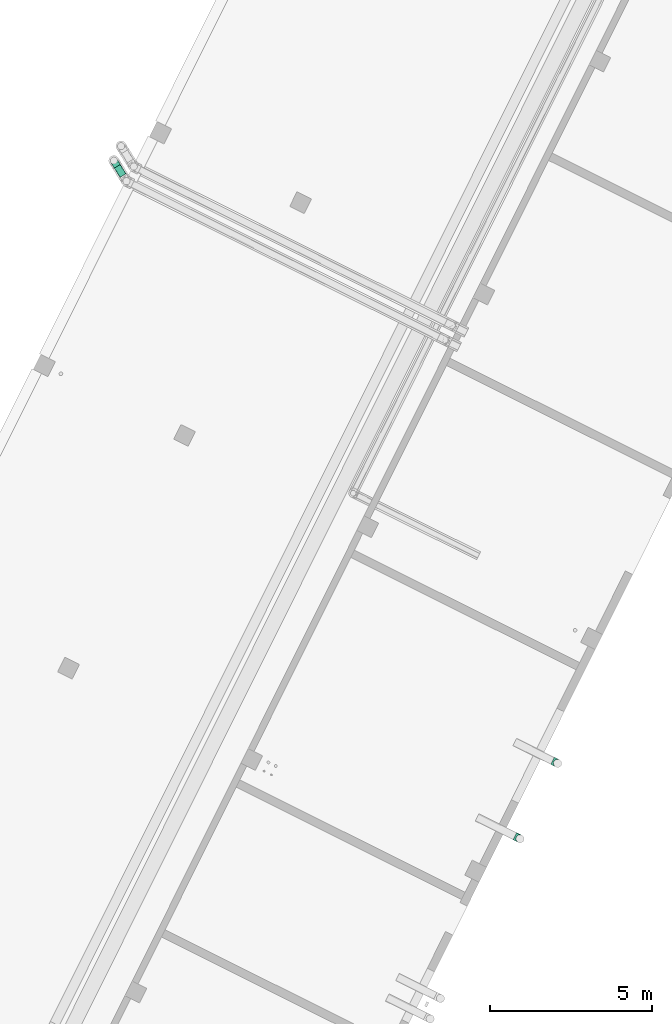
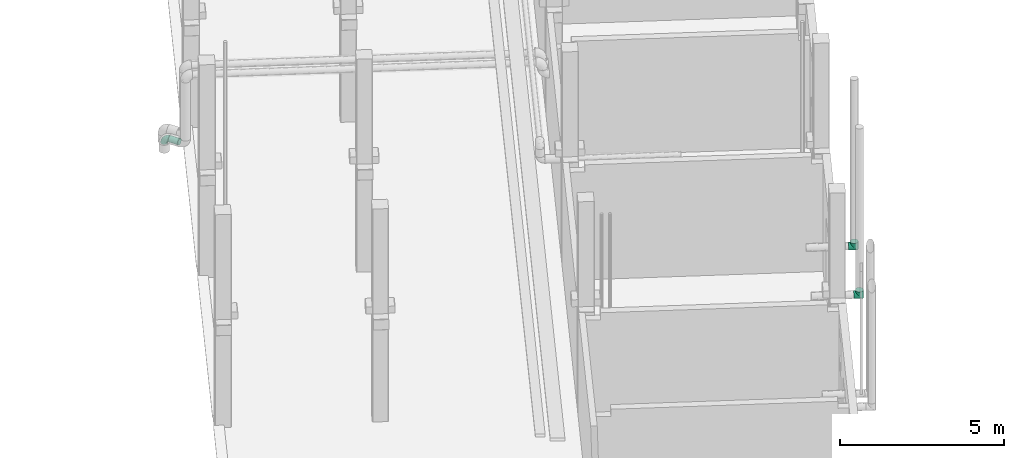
# One storey, part 72 of 91: 3 flow fittings, 1 flow segment.
"""IFC2X3 building model written with IfcOpenShell, lengths in metres."""

import ifcopenshell
import ifcopenshell.guid

model = None  # the IFC model being written
_history = None  # IfcOwnerHistory: only IFC2X3 demands one
_inside = {}  # id of a spatial element -> (the spatial element, [elements in it])
_under = {}  # id of a project, library or spatial element -> (it, [spatial elements below it])
_declared = {}  # id of a project -> (the project, [libraries it declares])
_typed = {}  # id of a type object -> (the type object, [elements of that type])
_made_of = {}  # id of a material, layer set ... -> (it, [elements and type objects made of it])


def new_model(schema):
    """Start an empty IFC model of exactly this schema.

    Asked for "IFC4X3", IfcOpenShell would pick the latest addendum, in which some entities
    have other attributes; the version numbers below select the first issue.
    IFC2X3 requires an IfcOwnerHistory on every rooted entity: one is made here for all.
    """
    global model, _history
    if schema == "IFC4X3":
        model = ifcopenshell.file(schema_version=(4, 3, 0, 0))
    else:
        model = ifcopenshell.file(schema=schema)
    _inside.clear()
    _under.clear()
    _declared.clear()
    _typed.clear()
    _made_of.clear()
    _history = None
    if model.schema == "IFC2X3":
        org = make("IfcOrganization", Name="unknown")
        user = make(
            "IfcPersonAndOrganization",
            ThePerson=make("IfcPerson", FamilyName="unknown"),
            TheOrganization=org,
        )
        app = make(
            "IfcApplication",
            ApplicationDeveloper=org,
            Version="unknown",
            ApplicationFullName="unknown",
            ApplicationIdentifier="unknown",
        )
        _history = make(
            "IfcOwnerHistory",
            OwningUser=user,
            OwningApplication=app,
            ChangeAction="ADDED",
            CreationDate=0,
        )
    return model


def make(cls, **values):
    """One entity of the class cls with the attributes given. An attribute that is None is left unset."""
    return model.create_entity(
        cls, **{name: value for name, value in values.items() if value is not None}
    )


def entity(cls, *values):
    """Any entity or typed value of the class cls, its attributes in the order of the schema. None: left unset."""
    e = model.create_entity(cls)
    for i, value in enumerate(values):
        if value is not None:
            e[i] = value
    return e


def rooted(cls, **values):
    """An entity with a GlobalId (a new one), such as an element, a storey or a relation."""
    return make(cls, GlobalId=ifcopenshell.guid.new(), OwnerHistory=_history, **values)


def si_unit(unit_type, name, prefix=None):
    """IfcSIUnit, for example si_unit("LENGTHUNIT", "METRE", prefix="MILLI")."""
    return make("IfcSIUnit", UnitType=unit_type, Prefix=prefix, Name=name)


def converted_unit(unit_type, name, factor, base, dimensions=None, offset=None):
    """IfcConversionBasedUnit, such as the inch: factor (a typed value) times the base unit."""
    return make(
        "IfcConversionBasedUnit"
        if offset is None
        else "IfcConversionBasedUnitWithOffset",
        ConversionOffset=offset,
        Dimensions=None
        if dimensions is None
        else entity("IfcDimensionalExponents", *dimensions),
        UnitType=unit_type,
        Name=name,
        ConversionFactor=make(
            "IfcMeasureWithUnit", ValueComponent=factor, UnitComponent=base
        ),
    )


def derived_unit(unit_type, elements):
    """IfcDerivedUnit: a product of units, each with its exponent."""
    return make(
        "IfcDerivedUnit",
        Elements=[
            make("IfcDerivedUnitElement", Unit=unit, Exponent=power)
            for unit, power in elements
        ],
        UnitType=unit_type,
    )


def assignment(units):
    """IfcUnitAssignment: the units of a project."""
    return None if units is None else make("IfcUnitAssignment", Units=units)


def point(xyz):
    """IfcCartesianPoint."""
    return None if xyz is None else make("IfcCartesianPoint", Coordinates=xyz)


def direction(xyz):
    """IfcDirection."""
    return None if xyz is None else make("IfcDirection", DirectionRatios=xyz)


def frame(location, z_axis=None, x_axis=None):
    """IfcAxis2Placement3D, a coordinate frame: its origin and axes. An axis left out is left unset."""
    return make(
        "IfcAxis2Placement3D",
        Location=point(location),
        Axis=direction(z_axis),
        RefDirection=direction(x_axis),
    )


def frame_2d(location, x_axis=None):
    """IfcAxis2Placement2D, a coordinate frame in the plane: its origin and x axis."""
    return make(
        "IfcAxis2Placement2D", Location=point(location), RefDirection=direction(x_axis)
    )


def origin():
    """The frame at (0, 0, 0) with its axes left unset."""
    return frame((0.0, 0.0, 0.0))


def origin_2d_with_axis():
    """The frame at (0, 0) in the plane with the x axis (1, 0) written out."""
    return frame_2d((0.0, 0.0), x_axis=(1.0, 0.0))


def place(relative_to, where):
    """IfcLocalPlacement: puts the frame where relative to a parent placement (None: the world)."""
    return make(
        "IfcLocalPlacement", PlacementRelTo=relative_to, RelativePlacement=where
    )


def context(
    kind, dimensions, precision=None, world=None, true_north=None, identifier=None
):
    """IfcGeometricRepresentationContext, for example the 3D "Model" context."""
    return make(
        "IfcGeometricRepresentationContext",
        ContextIdentifier=identifier,
        ContextType=kind,
        CoordinateSpaceDimension=dimensions,
        Precision=precision,
        WorldCoordinateSystem=world,
        TrueNorth=true_north,
    )


def subcontext(parent, identifier, kind, view, scale=None):
    """IfcGeometricRepresentationSubContext, for example "Body" below "Model"."""
    return make(
        "IfcGeometricRepresentationSubContext",
        ContextIdentifier=identifier,
        ContextType=kind,
        ParentContext=parent,
        TargetScale=scale,
        TargetView=view,
    )


def project(units=None, contexts=None):
    """IfcProject with its units and contexts."""
    return rooted(
        "IfcProject",
        Name="project",
        RepresentationContexts=contexts,
        UnitsInContext=assignment(units),
    )


def spatial(cls, under=None, at=None, **own):
    """A site, building, storey or space (cls), placed at a placement, below another one or the project."""
    s = rooted(cls, ObjectPlacement=at, **own)
    if under is not None:
        _under.setdefault(under.id(), (under, []))[1].append(s)
    return s


def profile(cls, at=None, kind="AREA", **sizes):
    """A parametric profile (cls). Its sizes go by their IFC names, for example OverallWidth=200.0."""
    return make(cls, ProfileType=kind, Position=at, **sizes)


def circle(**sizes):
    """IfcCircleProfileDef."""
    return profile("IfcCircleProfileDef", **sizes)


def extrude(swept, where, along, depth):
    """IfcExtrudedAreaSolid: the profile swept, set in the frame where, extruded along a direction by depth."""
    return make(
        "IfcExtrudedAreaSolid",
        SweptArea=swept,
        Position=where,
        ExtrudedDirection=direction(along),
        Depth=depth,
    )


def faces_of(points, faces, orient=None, outer=None):
    """IfcFace entities. A face is a list of loops; a loop is a list of indices into points, from 0.

    orient and outer hold one flag for each loop. By default every Orientation is true, the
    first loop of a face is its IfcFaceOuterBound and the others are IfcFaceBound.
    """
    made = []
    for i, loops in enumerate(faces):
        bounds = []
        for j, loop in enumerate(loops):
            is_outer = j == 0 if outer is None else outer[i][j]
            bounds.append(
                make(
                    "IfcFaceOuterBound" if is_outer else "IfcFaceBound",
                    Bound=make("IfcPolyLoop", Polygon=[points[k] for k in loop]),
                    Orientation=True if orient is None else orient[i][j],
                )
            )
        made.append(make("IfcFace", Bounds=bounds))
    return made


def faceted_brep(points, faces, orient=None, outer=None, voids=None):
    """IfcFacetedBrep: a solid bounded by flat faces; with voids (closed shells), ...WithVoids."""
    shared = [point(p) for p in points]
    hull = make("IfcClosedShell", CfsFaces=faces_of(shared, faces, orient, outer))
    if voids is None:
        return make("IfcFacetedBrep", Outer=hull)
    return make(
        "IfcFacetedBrepWithVoids",
        Outer=hull,
        Voids=[
            make(cls, CfsFaces=faces_of(shared, fs, o, b)) for cls, fs, o, b in voids
        ],
    )


def shape(context_of_items, identifier, shape_type, items):
    """IfcShapeRepresentation: the items that make up one representation, for example the "Body"."""
    return make(
        "IfcShapeRepresentation",
        ContextOfItems=context_of_items,
        RepresentationIdentifier=identifier,
        RepresentationType=shape_type,
        Items=items,
    )


def source(mapping_origin, context_of_items, identifier, shape_type, items):
    """IfcRepresentationMap: a shape defined once, which mapped items show again and again."""
    return make(
        "IfcRepresentationMap",
        MappingOrigin=mapping_origin,
        MappedRepresentation=shape(context_of_items, identifier, shape_type, items),
    )


def transform(
    local_origin,
    x_axis=None,
    y_axis=None,
    z_axis=None,
    scale=None,
    scale2=None,
    scale3=None,
    uniform=True,
):
    """IfcCartesianTransformationOperator3D, or its non-uniform kind. x_axis, y_axis, z_axis: its Axis1, 2, 3."""
    if uniform:
        return make(
            "IfcCartesianTransformationOperator3D",
            Axis1=direction(x_axis),
            Axis2=direction(y_axis),
            LocalOrigin=point(local_origin),
            Scale=scale,
            Axis3=direction(z_axis),
        )
    return make(
        "IfcCartesianTransformationOperator3DnonUniform",
        Axis1=direction(x_axis),
        Axis2=direction(y_axis),
        LocalOrigin=point(local_origin),
        Scale=scale,
        Axis3=direction(z_axis),
        Scale2=scale2,
        Scale3=scale3,
    )


def mapped(mapping_source, mapping_target):
    """IfcMappedItem: shows the shape of a source again, moved by a transform."""
    return make(
        "IfcMappedItem", MappingSource=mapping_source, MappingTarget=mapping_target
    )


def made_of(thing, what):
    """Note that an element or type object is made of a material, layer set ...; save() writes the relation."""
    if what is not None:
        _made_of.setdefault(what.id(), (what, []))[1].append(thing)
    return thing


def type_object(cls, material=None, **own):
    """A type object (cls), such as IfcWallType, which elements share."""
    return made_of(rooted(cls, **own), material)


def type_shapes(of_type, sources):
    """Give a type object the sources (RepresentationMaps) that its elements show as mapped items."""
    of_type.RepresentationMaps = sources


def element(
    cls,
    number,
    at=None,
    inside=None,
    cuts=None,
    type_object=None,
    material=None,
    context=None,
    identifier="Body",
    shape_type=None,
    held_by="IfcProductDefinitionShape",
    body=None,
    shapes=None,
    **own,
):
    """One element of the class cls, such as IfcWall. Its Tag is "e" and its number.

    at: its placement. inside: the storey or other place that contains it. cuts: it is an
    opening in that element (IfcRelVoidsElement). A single representation is given by context,
    identifier, shape_type and body (its items); several are given by shapes. held_by: the class
    of the entity that holds the representations. save() writes the other relations.
    """
    e = rooted(cls, Tag="e%d" % number, ObjectPlacement=at, **own)
    if body is not None:
        shapes = [shape(context, identifier, shape_type, body)]
    if shapes is not None:
        e.Representation = make(held_by, Representations=shapes)
    if inside is not None:
        _inside.setdefault(inside.id(), (inside, []))[1].append(e)
    if cuts is not None:
        rooted(
            "IfcRelVoidsElement", RelatingBuildingElement=cuts, RelatedOpeningElement=e
        )
    if type_object is not None:
        _typed.setdefault(type_object.id(), (type_object, []))[1].append(e)
    return made_of(e, material)


def aggregate(whole, parts):
    """IfcRelAggregates: a whole, such as a stair, and the parts it consists of."""
    return rooted("IfcRelAggregates", RelatingObject=whole, RelatedObjects=parts)


def save(model, path):
    """Write the relations noted so far, then the file.

    IfcRelAggregates (storeys below a building ...), IfcRelContainedInSpatialStructure (elements
    in a storey), IfcRelDefinesByType, IfcRelAssociatesMaterial and IfcRelDeclares: one each for
    every whole, place, type object, material and project.
    """
    for whole, parts in _under.values():
        aggregate(whole, parts)
    for where, things in _inside.values():
        rooted(
            "IfcRelContainedInSpatialStructure",
            RelatedElements=things,
            RelatingStructure=where,
        )
    for kind, things in _typed.values():
        rooted("IfcRelDefinesByType", RelatedObjects=things, RelatingType=kind)
    for what, things in _made_of.values():
        rooted("IfcRelAssociatesMaterial", RelatedObjects=things, RelatingMaterial=what)
    for by, libraries in _declared.values():
        rooted("IfcRelDeclares", RelatingContext=by, RelatedDefinitions=libraries)
    model.write(path)


model = new_model("IFC2X3")

# Units and contexts
model_context = context("Model", 3, precision=1e-05, world=origin(), true_north=direction((0.894925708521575, 0.446215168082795)))
context_of_model = context(None, 3, precision=1e-05, world=origin(), true_north=direction((0.894925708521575, 0.446215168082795)))
body_context = subcontext(model_context, "Body", "Model", "MODEL_VIEW")
ifc_project = project(units=[si_unit("LENGTHUNIT", "METRE"), si_unit("AREAUNIT", "SQUARE_METRE"), si_unit("VOLUMEUNIT", "CUBIC_METRE"), converted_unit("PLANEANGLEUNIT", "DEGREE", entity("IfcRatioMeasure", 0.0174532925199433), si_unit("PLANEANGLEUNIT", "RADIAN"), dimensions=[0, 0, 0, 0, 0, 0, 0]), si_unit("MASSUNIT", "GRAM", prefix="KILO"), si_unit("TIMEUNIT", "SECOND"), si_unit("FREQUENCYUNIT", "HERTZ"), si_unit("THERMODYNAMICTEMPERATUREUNIT", "DEGREE_CELSIUS"), derived_unit("THERMALTRANSMITTANCEUNIT", [(si_unit("MASSUNIT", "GRAM", prefix="KILO"), 1), (si_unit("THERMODYNAMICTEMPERATUREUNIT", "KELVIN"), -1), (si_unit("TIMEUNIT", "SECOND"), -3)]), derived_unit("VOLUMETRICFLOWRATEUNIT", [(si_unit("LENGTHUNIT", "METRE"), 3), (si_unit("TIMEUNIT", "SECOND"), -1)]), si_unit("ELECTRICCURRENTUNIT", "AMPERE"), si_unit("ELECTRICVOLTAGEUNIT", "VOLT"), si_unit("POWERUNIT", "WATT"), si_unit("FORCEUNIT", "NEWTON", prefix="KILO"), si_unit("ILLUMINANCEUNIT", "LUX"), si_unit("LUMINOUSFLUXUNIT", "LUMEN"), si_unit("LUMINOUSINTENSITYUNIT", "CANDELA"), si_unit("PRESSUREUNIT", "PASCAL")], contexts=[model_context, context_of_model])

# Site, building, storey
site_placement = place(None, frame((218.228324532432, 584.720189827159, 0.0), z_axis=(0.0, 0.0, 1.0), x_axis=(0.446215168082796, 0.894925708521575, 0.0)))
site = spatial("IfcSite", under=ifc_project, at=site_placement, Name="Default", CompositionType="ELEMENT")
building_placement = place(site_placement, origin())
building = spatial("IfcBuilding", under=site, at=building_placement, CompositionType="ELEMENT")
storey_placement = place(building_placement, origin())
storey = spatial("IfcBuildingStorey", under=building, at=storey_placement, Name="0 - Piano Terra", CompositionType="ELEMENT", Elevation=0.0)

# Flow fittings
duct_fitting_type = type_object("IfcDuctFittingType", Name="Standard", PredefinedType="NOTDEFINED")
shared_shape_1 = source(origin(), body_context, "Body", "Brep", [
    faceted_brep([(-0.0883883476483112, 0.175297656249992, -0.0883883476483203), (-0.108253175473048, 0.175297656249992, -0.0625000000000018), (-0.120740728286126, 0.175297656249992, -0.0323523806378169), (-0.124999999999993, 0.175297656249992, 0.0), (-0.120740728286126, 0.175297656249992, 0.0323523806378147), (-0.108253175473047, 0.175297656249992, 0.0624999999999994), (-0.0883883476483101, 0.175297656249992, 0.0883883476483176), (-0.0624999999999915, 0.175297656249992, 0.108253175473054), (-0.0323523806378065, 0.175297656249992, 0.120740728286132), (0.0, 0.175297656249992, 0.124999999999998), (0.0323523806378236, 0.175297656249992, 0.120740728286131), (0.0625000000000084, 0.175297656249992, 0.108253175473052), (0.0883883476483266, 0.175297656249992, 0.0883883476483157), (0.108253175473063, 0.175297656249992, 0.062499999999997), (0.120740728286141, 0.175297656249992, 0.032352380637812), (0.125000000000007, 0.175297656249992, 0.0), (0.120740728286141, 0.175297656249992, -0.0323523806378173), (0.108253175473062, 0.175297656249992, -0.0625000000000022), (0.0883883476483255, 0.175297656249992, -0.0883883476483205), (0.0625000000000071, 0.175297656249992, -0.108253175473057), (0.0323523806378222, 0.175297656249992, -0.120740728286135), (0.0, 0.175297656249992, -0.125000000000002), (-0.032352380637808, 0.175297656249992, -0.120740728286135), (-0.0624999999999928, 0.175297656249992, -0.108253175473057), (0.120740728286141, 0.125297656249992, 0.032352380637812), (0.12074072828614, -0.120740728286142, 0.0323523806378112), (0.125000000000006, -0.125000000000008, 0.0), (0.125000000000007, 0.125297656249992, 0.0), (0.108253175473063, 0.125297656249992, 0.062499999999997), (0.108253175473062, -0.108253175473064, 0.0624999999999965), (0.0883883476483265, 0.125297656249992, 0.0883883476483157), (0.0625000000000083, 0.125297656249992, 0.108253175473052), (0.0625000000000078, -0.0625000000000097, 0.108253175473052), (0.0883883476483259, -0.0883883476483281, 0.0883883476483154), (0.0323523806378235, 0.125297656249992, 0.120740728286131), (0.0323523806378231, -0.032352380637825, 0.120740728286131), (0.0, 0.125297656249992, 0.124999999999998), (0.0, 0.0, 0.124999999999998), (-0.0624999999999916, 0.125297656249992, 0.108253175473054), (-0.0624999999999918, 0.0624999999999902, 0.108253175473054), (-0.0323523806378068, 0.0323523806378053, 0.120740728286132), (-0.0323523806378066, 0.125297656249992, 0.120740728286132), (-0.0883883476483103, 0.125297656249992, 0.0883883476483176), (-0.0883883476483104, 0.0883883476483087, 0.0883883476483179), (-0.108253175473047, 0.125297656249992, 0.0624999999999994), (-0.120740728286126, 0.125297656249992, 0.0323523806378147), (-0.120740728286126, 0.120740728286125, 0.0323523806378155), (-0.108253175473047, 0.108253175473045, 0.0624999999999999), (-0.124999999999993, 0.125297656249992, 0.0), (-0.124999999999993, 0.124999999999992, 0.0), (-0.120740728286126, 0.125297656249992, -0.0323523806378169), (-0.120740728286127, 0.120740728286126, -0.0323523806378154), (-0.108253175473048, 0.125297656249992, -0.0625000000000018), (-0.108253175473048, 0.108253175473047, -0.0625000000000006), (-0.0883883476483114, 0.125297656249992, -0.0883883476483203), (-0.062499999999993, 0.125297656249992, -0.108253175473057), (-0.0624999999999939, 0.0624999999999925, -0.108253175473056), (-0.088388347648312, 0.0883883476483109, -0.0883883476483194), (-0.0323523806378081, 0.125297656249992, -0.120740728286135), (-0.0323523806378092, 0.0323523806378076, -0.120740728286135), (0.0, 0.125297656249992, -0.125000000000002), (0.0, 0.0, -0.125000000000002), (0.0625000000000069, 0.125297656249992, -0.108253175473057), (0.0883883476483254, 0.125297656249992, -0.0883883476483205), (0.0883883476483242, -0.0883883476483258, -0.0883883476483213), (0.0625000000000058, -0.0625000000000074, -0.108253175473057), (0.0323523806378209, -0.0323523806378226, -0.120740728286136), (0.0323523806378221, 0.125297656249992, -0.120740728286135), (0.120740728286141, 0.125297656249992, -0.0323523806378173), (0.12074072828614, -0.120740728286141, -0.0323523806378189), (0.108253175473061, -0.108253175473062, -0.0625000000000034), (0.108253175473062, 0.125297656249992, -0.0625000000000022), (-0.125297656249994, -0.125000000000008, 0.0), (-0.125297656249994, -0.120740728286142, 0.032352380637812), (-0.175297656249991, -0.120740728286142, 0.032352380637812), (-0.175297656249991, -0.125000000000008, 0.0), (-0.125297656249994, -0.108253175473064, 0.062499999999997), (-0.175297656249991, -0.108253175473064, 0.062499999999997), (-0.125297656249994, -0.0883883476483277, 0.0883883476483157), (-0.125297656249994, -0.0625000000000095, 0.108253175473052), (-0.175297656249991, -0.0625000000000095, 0.108253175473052), (-0.175297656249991, -0.0883883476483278, 0.0883883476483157), (-0.125297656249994, -0.0323523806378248, 0.120740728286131), (-0.175297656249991, -0.0323523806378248, 0.120740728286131), (-0.125297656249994, 0.0, 0.124999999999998), (-0.175297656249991, 0.0, 0.124999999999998), (-0.125297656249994, 0.0883883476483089, 0.0883883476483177), (-0.175297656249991, 0.088388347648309, 0.0883883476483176), (-0.175297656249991, 0.0624999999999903, 0.108253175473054), (-0.125297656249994, 0.0624999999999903, 0.108253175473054), (-0.175297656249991, 0.0323523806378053, 0.120740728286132), (-0.125297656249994, 0.0323523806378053, 0.120740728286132), (-0.125297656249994, 0.124999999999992, 0.0), (-0.175297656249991, 0.124999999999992, 0.0), (-0.175297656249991, 0.120740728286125, 0.0323523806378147), (-0.125297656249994, 0.120740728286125, 0.0323523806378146), (-0.175297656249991, 0.108253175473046, 0.0624999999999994), (-0.125297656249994, 0.108253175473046, 0.0624999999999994), (-0.125297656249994, 0.0883883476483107, -0.0883883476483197), (-0.175297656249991, 0.0883883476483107, -0.0883883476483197), (-0.175297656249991, 0.108253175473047, -0.0625000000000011), (-0.125297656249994, 0.108253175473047, -0.0625000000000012), (-0.175297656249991, 0.120740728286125, -0.0323523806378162), (-0.125297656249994, 0.120740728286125, -0.0323523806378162), (-0.125297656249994, 0.0323523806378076, -0.120740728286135), (-0.125297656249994, 0.0, -0.125000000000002), (-0.175297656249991, 0.0, -0.125000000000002), (-0.175297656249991, 0.0323523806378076, -0.120740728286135), (-0.175297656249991, 0.0624999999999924, -0.108253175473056), (-0.125297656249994, 0.0624999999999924, -0.108253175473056), (-0.125297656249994, -0.0625000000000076, -0.108253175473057), (-0.175297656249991, -0.0625000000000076, -0.108253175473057), (-0.175297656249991, -0.0323523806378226, -0.120740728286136), (-0.125297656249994, -0.0323523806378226, -0.120740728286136), (-0.125297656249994, -0.0883883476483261, -0.088388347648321), (-0.175297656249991, -0.0883883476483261, -0.088388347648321), (-0.125297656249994, -0.120740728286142, -0.032352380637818), (-0.175297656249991, -0.120740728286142, -0.032352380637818), (-0.175297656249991, -0.108253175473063, -0.0625000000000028), (-0.125297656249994, -0.108253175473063, -0.0625000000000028)], [[[0, 1, 2, 3, 4, 5, 6, 7, 8, 9, 10, 11, 12, 13, 14, 15, 16, 17, 18, 19, 20, 21, 22, 23]], [[14, 24, 25, 26, 27, 15]], [[13, 28, 29, 25, 24, 14]], [[30, 12, 11, 31, 32, 33]], [[13, 12, 30, 33, 29, 28]], [[31, 11, 10, 34, 35, 32]], [[34, 10, 9, 36, 37, 35]], [[7, 38, 39, 40, 41, 8]], [[6, 42, 43, 39, 38, 7]], [[44, 5, 4, 45, 46, 47]], [[6, 5, 44, 47, 43, 42]], [[45, 4, 3, 48, 49, 46]], [[41, 40, 37, 36, 9, 8]], [[2, 50, 51, 49, 48, 3]], [[1, 52, 53, 51, 50, 2]], [[54, 0, 23, 55, 56, 57]], [[1, 0, 54, 57, 53, 52]], [[55, 23, 22, 58, 59, 56]], [[58, 22, 21, 60, 61, 59]], [[62, 19, 18, 63, 64, 65]], [[20, 19, 62, 65, 66, 67]], [[68, 69, 70, 71, 17, 16]], [[17, 71, 70, 64, 63, 18]], [[15, 27, 26, 69, 68, 16]], [[20, 67, 66, 61, 60, 21]], [[72, 26, 25, 73, 74, 75]], [[29, 76, 77, 74, 73, 25]], [[78, 33, 32, 79, 80, 81]], [[29, 33, 78, 81, 77, 76]], [[79, 32, 35, 82, 83, 80]], [[37, 84, 85, 83, 82, 35]], [[39, 43, 86, 87, 88, 89]], [[40, 39, 89, 88, 90, 91]], [[46, 49, 92, 93, 94, 95]], [[47, 46, 95, 94, 96, 97]], [[43, 47, 97, 96, 87, 86]], [[40, 91, 90, 85, 84, 37]], [[53, 57, 98, 99, 100, 101]], [[51, 53, 101, 100, 102, 103]], [[104, 59, 61, 105, 106, 107]], [[56, 59, 104, 107, 108, 109]], [[57, 56, 109, 108, 99, 98]], [[49, 51, 103, 102, 93, 92]], [[65, 110, 111, 112, 113, 66]], [[64, 114, 115, 111, 110, 65]], [[116, 117, 118, 119, 70, 69]], [[64, 70, 119, 118, 115, 114]], [[72, 75, 117, 116, 69, 26]], [[113, 112, 106, 105, 61, 66]], [[106, 112, 111, 115, 118, 117, 75, 74, 77, 81, 80, 83, 85, 90, 88, 87, 96, 94, 93, 102, 100, 99, 108, 107]]]),
])
type_shapes(duct_fitting_type, [shared_shape_1])
for number, where, z_axis, x_axis, name in (
    (1, (-43.3488335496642, -13.728622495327, 2.90000000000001), (-1.0, 0.0, 0.0), (0.0, -1.0, 0.0), "M_Gomito ad angolo circolare - DTL:Standard"),
    (2, (-40.7557238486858, -13.728622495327, 2.90000000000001), (-1.0, 0.0, 0.0), (0.0, -1.0, 0.0), "M_Gomito ad angolo circolare - DTL:Standard"),
):
    element("IfcFlowFitting", number, at=place(storey_placement, frame(where, z_axis=z_axis, x_axis=x_axis)), inside=storey, type_object=duct_fitting_type, Name=name, ObjectType="Standard", context=body_context, shape_type="MappedRepresentation", body=[
        mapped(shared_shape_1, transform((0.0, 0.0, 0.0), scale=1.0)),
    ])

# Flow segment
pipe_segment_type = type_object("IfcPipeSegmentType", Name="Tubazione:Teleriscaldamento-Tubazione", PredefinedType="NOTDEFINED")
flow_segment_placement = place(storey_placement, frame((-30.6301016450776, 6.25227424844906, 0.38886722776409)))
element("IfcFlowSegment", 3, at=flow_segment_placement, inside=storey, type_object=pipe_segment_type, Name="Tubazione:Teleriscaldamento-Tubazione", ObjectType="Tubazione:Teleriscaldamento-Tubazione", context=body_context, shape_type="SweptSolid", body=[
    extrude(circle(Radius=0.1095375, at=origin_2d_with_axis()), frame((0.0947311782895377, 0.0592508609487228, 0.111132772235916), z_axis=(0.52635479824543, 0.850265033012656, 0.0), x_axis=(-0.850265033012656, 0.52635479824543, 0.0)), (0.0, 0.0, 1.0), 0.334945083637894),
])

# Flow fitting
pipe_fitting_type = type_object("IfcPipeFittingType", Name="Standard", PredefinedType="NOTDEFINED")
shared_shape_2 = source(origin(), body_context, "Body", "Brep", [
    faceted_brep([(-0.202999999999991, 0.0547749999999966, -0.0948730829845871), (-0.202999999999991, 0.0283536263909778, -0.105817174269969), (-0.202999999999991, 0.0, -0.109550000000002), (-0.202999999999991, -0.0283536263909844, -0.105817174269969), (-0.202999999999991, -0.0547750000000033, -0.0948730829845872), (-0.202999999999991, -0.0774635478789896, -0.0774635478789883), (-0.202999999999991, -0.0948730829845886, -0.0547750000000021), (-0.202999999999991, -0.105817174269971, -0.0283536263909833), (-0.20299999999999, -0.109550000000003, 0.0), (-0.202999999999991, -0.105817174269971, 0.0283536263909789), (-0.202999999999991, -0.094873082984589, 0.0547749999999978), (-0.202999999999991, -0.0774635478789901, 0.0774635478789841), (-0.202999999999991, -0.0547750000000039, 0.0948730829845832), (-0.202999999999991, -0.0283536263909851, 0.105817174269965), (-0.202999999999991, 0.0, 0.109549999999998), (-0.202999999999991, 0.0283536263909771, 0.105817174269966), (-0.202999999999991, 0.054774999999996, 0.0948730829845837), (-0.202999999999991, 0.0774635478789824, 0.0774635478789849), (-0.202999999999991, 0.0948730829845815, 0.0547749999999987), (-0.202999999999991, 0.105817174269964, 0.0283536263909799), (-0.202999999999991, 0.109549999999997, 0.0), (-0.202999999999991, 0.105817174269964, -0.028353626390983), (-0.202999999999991, 0.0948730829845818, -0.0547750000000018), (-0.202999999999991, 0.0774635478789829, -0.0774635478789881), (0.0, 0.202999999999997, -0.109550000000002), (-0.0283536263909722, 0.202999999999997, -0.105817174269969), (-0.054774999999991, 0.202999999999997, -0.0948730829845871), (-0.0774635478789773, 0.202999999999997, -0.0774635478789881), (-0.0948730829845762, 0.202999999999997, -0.0547750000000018), (-0.105817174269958, 0.202999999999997, -0.028353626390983), (-0.109549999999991, 0.202999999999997, 0.0), (-0.105817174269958, 0.202999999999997, 0.0283536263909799), (-0.0948730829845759, 0.202999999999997, 0.0547749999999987), (-0.0774635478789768, 0.202999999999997, 0.0774635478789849), (-0.0547749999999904, 0.202999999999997, 0.0948730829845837), (-0.0283536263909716, 0.202999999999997, 0.105817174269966), (0.0, 0.202999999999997, 0.109549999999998), (0.0283536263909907, 0.202999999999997, 0.105817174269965), (0.0547750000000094, 0.202999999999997, 0.0948730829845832), (0.0774635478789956, 0.202999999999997, 0.0774635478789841), (0.0948730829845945, 0.202999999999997, 0.0547749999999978), (0.105817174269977, 0.202999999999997, 0.0283536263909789), (0.109550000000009, 0.202999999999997, 0.0), (0.105817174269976, 0.202999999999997, -0.0283536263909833), (0.0948730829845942, 0.202999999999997, -0.0547750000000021), (0.0774635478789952, 0.202999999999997, -0.0774635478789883), (0.0547750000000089, 0.202999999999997, -0.0948730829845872), (0.02835362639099, 0.202999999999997, -0.105817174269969), (-0.149543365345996, -0.0859410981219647, 0.0612248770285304), (-0.133274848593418, -0.0645105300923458, 0.0812809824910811), (-0.14202451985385, -0.103544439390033, 0.0), (0.0365496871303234, 0.00903200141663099, 0.0304499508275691), (-0.0120053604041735, -0.0341632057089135, 0.041197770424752), (-0.00653643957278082, -0.03821029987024, 0.0177929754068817), (-0.137121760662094, -0.0970162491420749, 0.0339274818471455), (-0.171652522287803, 0.066276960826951, 0.0898121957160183), (-0.157181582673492, 0.0911021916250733, 0.0725483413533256), (-0.154019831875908, -0.0152662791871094, 0.107577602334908), (-0.141251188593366, 0.0156360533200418, 0.109400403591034), (0.0180062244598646, -0.0180062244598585, 0.0), (-0.029356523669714, -0.0568758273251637, 0.0), (-0.0619292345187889, -0.0721800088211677, 0.0267538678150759), (-0.0987053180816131, -0.0848025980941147, 0.0369872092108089), (-0.0833922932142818, -0.0857585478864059, 0.0), (0.018303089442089, 0.0117187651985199, 0.0631562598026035), (0.0540677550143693, 0.0443537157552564, 0.0467365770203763), (0.0463447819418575, 0.0617040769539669, 0.070801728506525), (-0.148629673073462, -0.0423036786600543, 0.0983487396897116), (-0.0530131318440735, 0.00418638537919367, 0.0994039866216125), (-0.0988806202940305, -0.0032608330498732, 0.105897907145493), (-0.0936936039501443, -0.0288665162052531, 0.0956874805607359), (-0.0156360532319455, 0.141251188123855, 0.109400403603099), (0.0645105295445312, 0.133274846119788, 0.0812809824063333), (-0.0186420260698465, 0.102508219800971, 0.109328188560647), (-0.040155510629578, 0.06673830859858, 0.109151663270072), (0.00326083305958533, 0.0988806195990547, 0.105897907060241), (-0.156218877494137, 0.0421194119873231, 0.103653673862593), (-0.0911021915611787, 0.157181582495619, 0.0725483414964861), (-0.162665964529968, 0.105172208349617, 0.0505623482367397), (-0.0696903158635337, 0.107291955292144, 0.102414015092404), (-0.099677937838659, 0.0822390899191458, 0.10029461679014), (-0.0755574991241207, 0.0755574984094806, 0.107157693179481), (-0.148071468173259, 0.127397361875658, 0.0), (-0.174122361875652, 0.114123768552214, 0.0), (-0.15467602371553, 0.118894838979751, 0.0276600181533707), (-0.0190685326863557, 0.0454014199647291, 0.102290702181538), (-0.128250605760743, 0.12825060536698, 0.0503604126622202), (-0.11889483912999, 0.154676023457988, 0.0276600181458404), (-0.134241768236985, 0.110156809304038, 0.0659581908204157), (-0.0753133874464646, 0.133251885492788, 0.093243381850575), (-0.111883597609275, 0.111883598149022, 0.0806484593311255), (-0.0470267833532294, -0.0485912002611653, 0.0578716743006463), (0.0568758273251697, 0.0293565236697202, 0.0), (0.0857585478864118, 0.0833922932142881, 0.0), (0.0721800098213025, 0.0619292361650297, 0.0267538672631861), (0.0729318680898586, 0.090582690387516, 0.0546361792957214), (0.0892520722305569, 0.0983535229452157, 0.0214848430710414), (0.103544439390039, 0.142024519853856, 0.0), (0.0970162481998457, 0.137121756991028, 0.0339274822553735), (-0.110418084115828, 0.133181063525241, 0.0665189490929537), (-0.105172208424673, 0.162665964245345, 0.0505623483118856), (0.0859410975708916, 0.149543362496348, 0.061224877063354), (-0.133251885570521, 0.0753133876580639, 0.0932433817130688), (-0.113132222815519, 0.0515635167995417, 0.10619458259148), (0.0152662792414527, 0.1540198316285, 0.107577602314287), (-0.0601833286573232, -0.0379290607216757, 0.0778476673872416), (-0.090582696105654, -0.0729318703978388, 0.054636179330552), (-0.127397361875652, 0.148071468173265, 0.0), (-0.114123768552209, 0.174122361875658, 0.0), (-0.01879993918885, -0.0187194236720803, 0.0687990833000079), (-0.0441881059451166, 0.111554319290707, 0.107756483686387), (-0.0662769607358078, 0.171652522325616, 0.0898121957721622), (-0.0421194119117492, 0.156218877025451, 0.103653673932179), (0.0423036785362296, 0.14862967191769, 0.0983487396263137), (0.0297661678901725, 0.0757392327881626, 0.0901218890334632), (-0.0637434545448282, 0.0239651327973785, 0.106929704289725), (-0.0136192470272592, 0.0136192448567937, 0.0883116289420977), (0.0190607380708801, 0.0376114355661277, 0.0808854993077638), (-0.087146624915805, 0.0351941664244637, 0.10954618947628), (-0.0992158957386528, 0.090657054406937, -0.0974457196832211), (-0.114529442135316, 0.106972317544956, -0.0821888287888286), (-0.0771700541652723, 0.128615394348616, -0.0936577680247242), (-0.176860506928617, 0.0658687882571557, -0.0893402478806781), (-0.114594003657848, -0.00815353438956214, -0.106441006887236), (-0.163068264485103, -0.0159005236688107, -0.107798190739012), (-0.146932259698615, 0.0146955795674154, -0.109355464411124), (-0.133786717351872, 0.109681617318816, -0.0668149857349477), (-0.162569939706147, 0.10523809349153, -0.0505157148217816), (-0.128250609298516, 0.128250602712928, -0.0503604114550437), (-0.157112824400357, 0.0419935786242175, -0.103610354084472), (-0.105106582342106, 0.162761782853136, -0.0506088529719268), (-0.154676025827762, 0.118894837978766, -0.027660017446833), (-0.0643852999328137, -0.0709858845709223, -0.0342625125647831), (-0.0915471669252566, 0.155661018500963, -0.0727454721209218), (-0.110775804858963, 0.133154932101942, -0.0661646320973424), (-0.118894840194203, 0.154676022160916, -0.0276600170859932), (-0.159632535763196, 0.0904285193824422, -0.0722315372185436), (-0.14182871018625, 0.0723368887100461, -0.0924790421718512), (0.00939374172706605, 0.044912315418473, -0.0904751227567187), (0.00425554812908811, 0.086201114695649, -0.103841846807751), (0.0255018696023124, 0.0846960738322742, -0.0951394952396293), (0.0380992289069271, 0.00673624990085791, -0.0190378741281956), (-0.0356806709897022, -0.00623671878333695, -0.0882490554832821), (-0.0862103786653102, -0.0240952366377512, -0.0962234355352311), (-0.0716290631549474, 0.00926635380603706, -0.105050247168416), (-0.0898086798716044, 0.0297010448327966, -0.109477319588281), (-0.147381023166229, -0.0986515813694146, -0.0352134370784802), (-0.17038635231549, -0.0875153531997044, -0.0633997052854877), (-0.112622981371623, -0.094584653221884, -0.018328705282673), (-0.0131511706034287, 0.160158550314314, -0.10922921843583), (-0.0431379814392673, 0.14994406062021, -0.103954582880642), (-0.149056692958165, -0.06659425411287, -0.0826203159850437), (-0.141993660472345, -0.0415311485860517, -0.0979674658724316), (-0.073675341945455, -0.0477716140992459, -0.0757346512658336), (-0.126407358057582, -0.0823794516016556, -0.0587267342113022), (-0.0460971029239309, -0.0446746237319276, -0.062182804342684), (-0.0129711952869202, -0.0197392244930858, -0.062766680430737), (0.0986515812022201, 0.14738102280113, -0.0352134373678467), (0.0147379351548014, 0.148841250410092, -0.107444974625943), (-0.122247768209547, 0.0376894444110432, -0.107886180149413), (-0.106473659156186, -0.0867326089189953, -0.0389581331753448), (-0.00866559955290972, -0.0368208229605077, -0.0288811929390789), (0.0662633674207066, 0.145994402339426, -0.082363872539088), (0.0435947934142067, 0.170932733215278, -0.0995758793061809), (0.0391915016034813, 0.127368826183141, -0.0970983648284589), (-0.0665741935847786, 0.168857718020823, -0.0900643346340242), (0.0875153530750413, 0.170386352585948, -0.0633997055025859), (0.071558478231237, 0.0632924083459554, -0.0310440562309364), (-0.0327241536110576, 0.0327241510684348, -0.102819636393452), (0.0901910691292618, 0.102275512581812, -0.0234517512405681), (-0.0251812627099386, 0.0738283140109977, -0.108256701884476), (-0.0528394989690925, 0.0423893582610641, -0.108242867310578), (-0.0553540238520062, 0.0683772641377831, -0.109503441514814), (0.0666566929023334, 0.0858982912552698, -0.0610149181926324), (0.0470404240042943, 0.0455554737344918, -0.0587237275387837), (0.0477716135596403, 0.0736753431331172, -0.0757346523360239), (-0.0781940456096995, -0.0660069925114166, -0.057006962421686), (0.0823794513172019, 0.126407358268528, -0.0587267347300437), (-0.023684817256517, 0.110613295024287, -0.109542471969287), (-0.0616602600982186, 0.102519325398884, -0.105479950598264), (0.0336027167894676, 0.0126634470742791, -0.0432313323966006), (0.0194637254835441, 0.0233258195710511, -0.071546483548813), (0.0824234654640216, 0.0985101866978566, -0.0425512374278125), (-0.0940929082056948, 0.0634850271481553, -0.106417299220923)], [[[0, 1, 2, 3, 4, 5, 6, 7, 8, 9, 10, 11, 12, 13, 14, 15, 16, 17, 18, 19, 20, 21, 22, 23]], [[24, 25, 26, 27, 28, 29, 30, 31, 32, 33, 34, 35, 36, 37, 38, 39, 40, 41, 42, 43, 44, 45, 46, 47]], [[48, 49, 11]], [[9, 8, 50]], [[51, 52, 53]], [[54, 10, 9]], [[50, 54, 9]], [[17, 55, 56]], [[10, 48, 11]], [[14, 57, 58]], [[59, 53, 60]], [[61, 62, 63]], [[12, 11, 49]], [[64, 65, 66]], [[49, 67, 12]], [[68, 69, 70]], [[71, 36, 35]], [[72, 39, 38]], [[73, 74, 75]], [[15, 76, 16]], [[77, 33, 32]], [[15, 58, 76]], [[13, 57, 14]], [[78, 19, 18]], [[79, 80, 81]], [[82, 83, 84]], [[74, 85, 75]], [[20, 19, 84]], [[86, 87, 84]], [[51, 64, 52]], [[78, 56, 88]], [[89, 77, 90]], [[17, 16, 55]], [[18, 17, 56]], [[91, 61, 52]], [[20, 84, 83]], [[92, 93, 94]], [[95, 94, 96]], [[97, 41, 98]], [[97, 98, 96]], [[99, 100, 86]], [[30, 87, 31]], [[14, 58, 15]], [[98, 41, 40]], [[101, 72, 95]], [[40, 39, 101]], [[63, 54, 50]], [[102, 103, 80]], [[54, 62, 48]], [[41, 97, 42]], [[101, 98, 40]], [[37, 36, 104]], [[105, 49, 106]], [[87, 82, 84]], [[87, 100, 31]], [[87, 107, 82]], [[108, 87, 30]], [[60, 61, 63]], [[109, 105, 91]], [[107, 87, 108]], [[110, 74, 73]], [[34, 33, 111]], [[77, 89, 111]], [[71, 112, 110]], [[72, 113, 114]], [[113, 38, 37]], [[35, 34, 112]], [[35, 112, 71]], [[104, 71, 73]], [[12, 67, 13]], [[115, 69, 68]], [[113, 72, 38]], [[86, 100, 87]], [[59, 92, 51]], [[90, 99, 88]], [[80, 90, 102]], [[78, 86, 84]], [[94, 51, 92]], [[116, 105, 109]], [[94, 65, 51]], [[66, 72, 114]], [[91, 105, 106]], [[105, 116, 68]], [[70, 49, 105]], [[57, 67, 69]], [[104, 113, 37]], [[75, 85, 114]], [[75, 114, 113]], [[117, 64, 66]], [[111, 112, 34]], [[110, 79, 81]], [[58, 118, 103]], [[55, 76, 102]], [[54, 48, 10]], [[49, 48, 106]], [[72, 101, 39]], [[98, 101, 95]], [[99, 90, 77]], [[56, 102, 90]], [[71, 104, 36]], [[113, 104, 75]], [[67, 57, 13]], [[58, 57, 69]], [[61, 60, 53]], [[62, 61, 106]], [[96, 94, 93]], [[94, 95, 65]], [[77, 32, 100]], [[31, 100, 32]], [[19, 78, 84]], [[18, 56, 78]], [[79, 112, 89]], [[110, 81, 74]], [[118, 74, 81]], [[85, 68, 116]], [[103, 81, 80]], [[69, 118, 58]], [[118, 69, 115]], [[114, 85, 116]], [[85, 74, 115]], [[69, 67, 70]], [[49, 70, 67]], [[105, 68, 70]], [[85, 115, 68]], [[74, 118, 115]], [[112, 79, 110]], [[89, 90, 80]], [[80, 79, 89]], [[103, 102, 76]], [[58, 103, 76]], [[118, 81, 103]], [[77, 111, 33]], [[112, 111, 89]], [[76, 55, 16]], [[56, 55, 102]], [[66, 65, 95]], [[64, 51, 65]], [[72, 66, 95]], [[66, 114, 117]], [[114, 116, 117]], [[117, 116, 109]], [[51, 53, 59]], [[61, 53, 52]], [[61, 91, 106]], [[109, 52, 64]], [[52, 109, 91]], [[109, 64, 117]], [[100, 99, 77]], [[88, 99, 86]], [[78, 88, 86]], [[90, 88, 56]], [[48, 62, 106]], [[63, 62, 54]], [[97, 96, 93]], [[95, 96, 98]], [[104, 73, 75]], [[110, 73, 71]], [[119, 120, 121]], [[0, 23, 122]], [[123, 124, 125]], [[126, 127, 128]], [[1, 129, 125]], [[130, 29, 28]], [[83, 131, 20]], [[63, 132, 60]], [[131, 83, 82]], [[130, 133, 134]], [[107, 135, 82]], [[122, 136, 137]], [[138, 139, 140]], [[141, 92, 59]], [[142, 143, 144]], [[145, 123, 125]], [[146, 6, 147]], [[148, 50, 146]], [[50, 8, 7]], [[149, 150, 25]], [[151, 4, 152]], [[151, 153, 154]], [[151, 5, 4]], [[155, 142, 156]], [[23, 22, 136]], [[146, 7, 6]], [[147, 6, 5]], [[44, 43, 157]], [[4, 3, 152]], [[124, 152, 3]], [[47, 158, 24]], [[129, 159, 125]], [[131, 82, 135]], [[143, 152, 123]], [[128, 131, 135]], [[2, 1, 125]], [[29, 135, 30]], [[146, 160, 148]], [[161, 60, 132]], [[21, 131, 127]], [[150, 26, 25]], [[46, 45, 162]], [[158, 47, 163]], [[164, 163, 162]], [[27, 165, 133]], [[149, 25, 24]], [[45, 44, 166]], [[27, 26, 165]], [[30, 135, 108]], [[47, 46, 163]], [[92, 141, 167]], [[60, 161, 59]], [[138, 168, 139]], [[150, 121, 165]], [[167, 169, 93]], [[170, 171, 172]], [[173, 167, 174]], [[2, 124, 3]], [[164, 162, 175]], [[27, 133, 28]], [[42, 97, 43]], [[167, 93, 92]], [[132, 176, 155]], [[157, 177, 166]], [[137, 120, 119]], [[178, 158, 139]], [[121, 150, 179]], [[20, 131, 21]], [[1, 0, 129]], [[108, 135, 107]], [[125, 159, 145]], [[176, 132, 160]], [[178, 172, 179]], [[120, 137, 136]], [[130, 128, 135]], [[174, 180, 181]], [[157, 169, 182]], [[128, 127, 131]], [[134, 120, 126]], [[166, 162, 45]], [[162, 177, 173]], [[139, 158, 164]], [[149, 158, 178]], [[140, 175, 138]], [[170, 172, 178]], [[43, 97, 157]], [[97, 93, 169]], [[146, 154, 160]], [[50, 7, 146]], [[126, 120, 136]], [[133, 121, 120]], [[161, 132, 155]], [[141, 161, 180]], [[122, 129, 0]], [[183, 129, 137]], [[153, 151, 152]], [[147, 151, 154]], [[181, 180, 156]], [[142, 168, 138]], [[138, 175, 181]], [[153, 152, 143]], [[181, 142, 138]], [[161, 156, 180]], [[172, 145, 183]], [[145, 171, 144]], [[29, 130, 135]], [[28, 133, 130]], [[136, 22, 127]], [[21, 127, 22]], [[158, 149, 24]], [[150, 149, 178]], [[179, 172, 183]], [[178, 139, 170]], [[179, 183, 119]], [[178, 179, 150]], [[143, 123, 144]], [[153, 143, 142]], [[181, 175, 174]], [[142, 181, 156]], [[150, 165, 26]], [[133, 165, 121]], [[125, 124, 2]], [[152, 124, 123]], [[179, 119, 121]], [[137, 119, 183]], [[139, 168, 170]], [[171, 170, 168]], [[144, 171, 168]], [[145, 172, 171]], [[144, 168, 142]], [[145, 144, 123]], [[173, 174, 175]], [[167, 180, 174]], [[162, 173, 175]], [[173, 177, 182]], [[161, 141, 59]], [[167, 141, 180]], [[136, 122, 23]], [[129, 122, 137]], [[162, 163, 46]], [[158, 163, 164]], [[157, 166, 44]], [[162, 166, 177]], [[151, 147, 5]], [[146, 147, 154]], [[154, 153, 176]], [[155, 176, 153]], [[142, 155, 153]], [[161, 155, 156]], [[182, 169, 167]], [[97, 169, 157]], [[173, 182, 167]], [[157, 182, 177]], [[176, 160, 154]], [[148, 132, 63]], [[132, 148, 160]], [[50, 148, 63]], [[127, 126, 136]], [[134, 126, 128]], [[130, 134, 128]], [[120, 134, 133]], [[129, 183, 159]], [[145, 159, 183]], [[139, 164, 140]], [[175, 140, 164]]]),
])
type_shapes(pipe_fitting_type, [shared_shape_2])
flow_fitting_placement = place(storey_placement, frame((-30.2522204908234, 6.76892100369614, 0.499999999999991), z_axis=(0.850265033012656, -0.52635479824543, 0.0), x_axis=(0.0, 0.0, 1.0)))
element("IfcFlowFitting", 4, at=flow_fitting_placement, inside=storey, type_object=pipe_fitting_type, Name="M_Gomito - Saldato - Generico:Standard", ObjectType="Standard", context=body_context, shape_type="MappedRepresentation", body=[
    mapped(shared_shape_2, transform((0.0, 0.0, 0.0), scale=1.0)),
])

save(model, "model.ifc")
